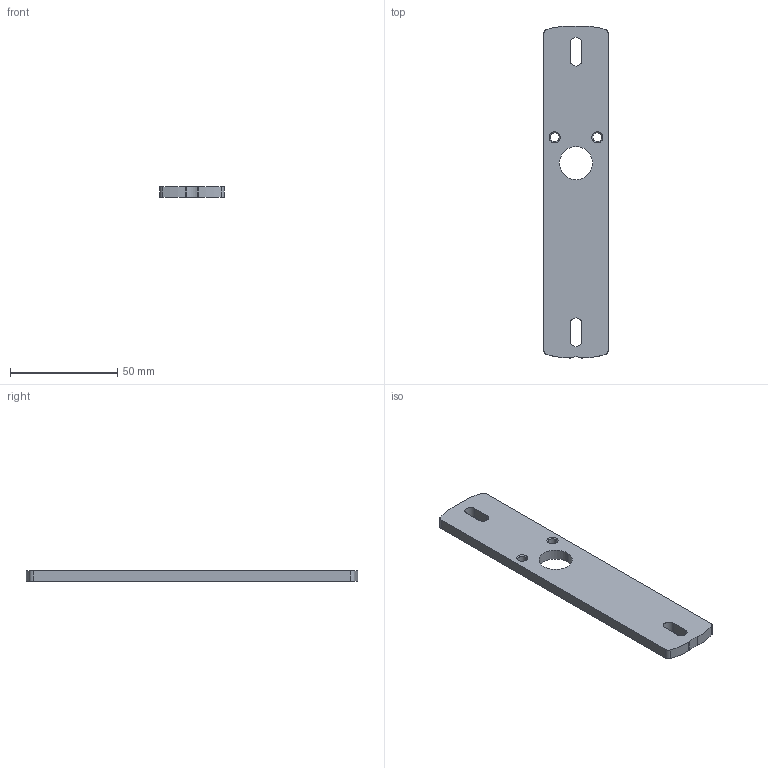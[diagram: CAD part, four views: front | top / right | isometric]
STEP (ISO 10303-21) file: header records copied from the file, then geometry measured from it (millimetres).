
FILE_DESCRIPTION (( 'STEP AP203' ), '1' );
FILE_NAME ('ZF_STEP_AP_X10.STEP', '2025-11-17T10:24:12', ( '' ), ( '' ), 'SwSTEP 2.0', 'SolidWorks 2023', '' );
FILE_SCHEMA (( 'CONFIG_CONTROL_DESIGN' ));
Length unit declared in the file: millimetre
Products named in the file (2): 33040_33040; ZF_STEP_AP_X10
Assembly tree (1 placements, depth 2):
  ZF_STEP_AP_X10
    33040_33040
Bounding box: 30 x 155 x 5 mm (x, y, z)
Volume: 21325.1 mm3; surface area: 11031 mm2
Topology: 1 solids, 1 shells, 38 faces, 100 edges, 64 vertices
Faces by surface type: cylinder 19, plane 11, cone 8
Entity records: 1402 total; most frequent: DIRECTION 230, CARTESIAN_POINT 206, ORIENTED_EDGE 200, EDGE_CURVE 100, AXIS2_PLACEMENT_3D 88, VERTEX_POINT 64, VECTOR 54, LINE 54
